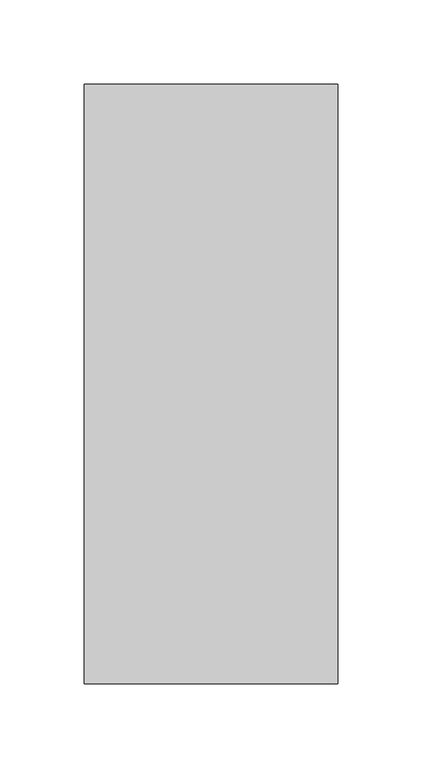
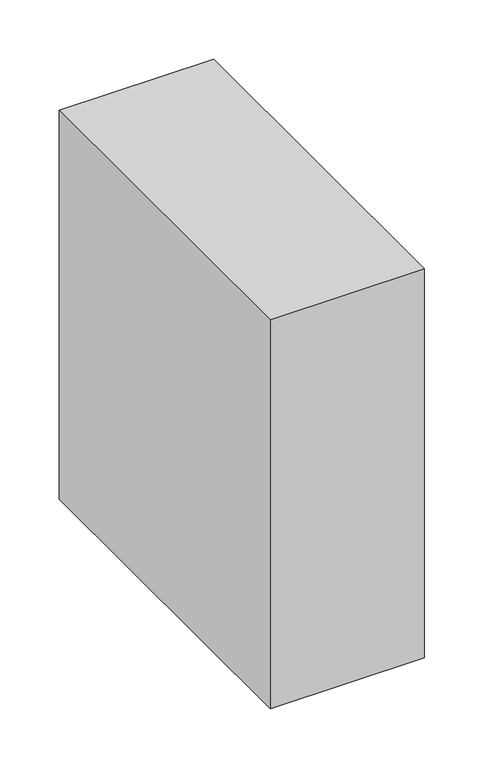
"""IFC4 building model written with IfcOpenShell, lengths in millimetres: proxy geometry."""

from ifc_helpers import new_model, si_unit, frame, origin, place, context, project, spatial, polyline, outline, extrude, source, transform, mapped, element, save


def structural_framing_2e0781ad(model_context):
    return source(origin(), model_context, "Body", "SweptSolid", [
        extrude(outline(polyline([(75.0, -177.5133951), (-75.0, -177.5133951), (-75.0, 177.5133951), (75.0, 177.5133951), (75.0, -177.5133951)])), frame((0.0, 0.0, -400.0), z_axis=(0.0, 0.0, 1.0), x_axis=(1.0, 0.0, 0.0)), (0.0, 0.0, 1.0), 400.0),
    ])


if __name__ == "__main__":
    model = new_model("IFC4")
    model_context = context("Model", 3, world=origin())
    ifc_project = project(units=[si_unit("LENGTHUNIT", "METRE", prefix="MILLI")], contexts=[model_context])
    site = spatial("IfcSite", under=ifc_project)
    building = spatial("IfcBuilding", under=site)
    placement = place(None, origin())
    structural_framing_shape = structural_framing_2e0781ad(model_context)
    element("IfcBuildingElementProxy", 1, Name="Structural Framing", at=placement, inside=building, context=model_context, shape_type="MappedRepresentation", body=[
        mapped(structural_framing_shape, transform((0.0, 0.0, 0.0), x_axis=(1.0, 0.0, 0.0), y_axis=(0.0, 1.0, 0.0), z_axis=(0.0, 0.0, 1.0))),
    ])
    save(model, "model.ifc")
